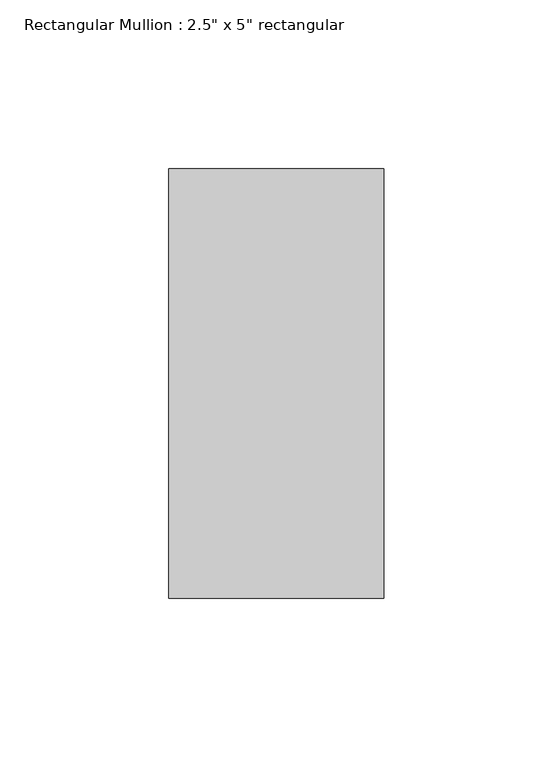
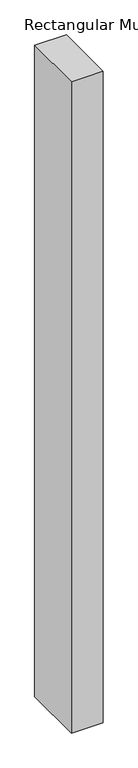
"""IFC4 building model written with IfcOpenShell, lengths in millimetres: member geometry."""

from ifc_helpers import new_model, si_unit, frame, origin, place, context, project, spatial, polyline, outline, extrude, source, transform, mapped, element, save


def member_103d86dd(model_context):
    return source(origin(), model_context, "Body", "SweptSolid", [
        extrude(outline(polyline([(31.75, 63.5), (31.75, -63.5), (-31.75, -63.5), (-31.75, 63.5), (31.75, 63.5)])), frame((0.0, 0.0, -1375.8333331), z_axis=(0.0, 0.0, 1.0), x_axis=(1.0, 0.0, 0.0)), (0.0, 0.0, 1.0), 1375.8333331),
    ])


if __name__ == "__main__":
    model = new_model("IFC4")
    model_context = context("Model", 3, world=origin())
    ifc_project = project(units=[si_unit("LENGTHUNIT", "METRE", prefix="MILLI")], contexts=[model_context])
    site = spatial("IfcSite", under=ifc_project)
    building = spatial("IfcBuilding", under=site)
    placement = place(None, origin())
    member_shape = member_103d86dd(model_context)
    element("IfcMember", 1, ObjectType="Rectangular Mullion : 2.5\" x 5\" rectangular", at=placement, inside=building, context=model_context, shape_type="MappedRepresentation", body=[
        mapped(member_shape, transform((0.0, 0.0, 0.0), x_axis=(1.0, 0.0, 0.0), y_axis=(0.0, 1.0, 0.0), z_axis=(0.0, 0.0, 1.0))),
    ])
    save(model, "model.ifc")
